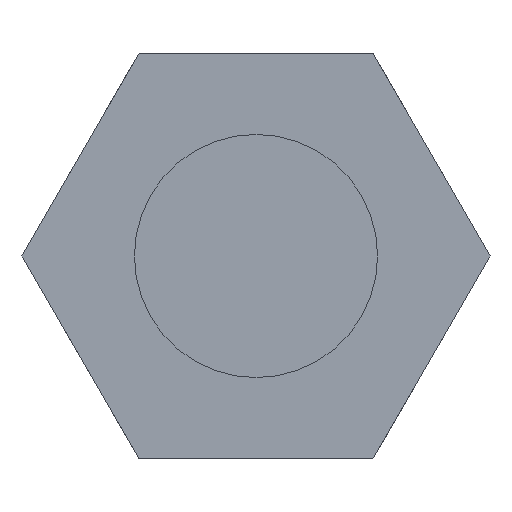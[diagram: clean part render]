
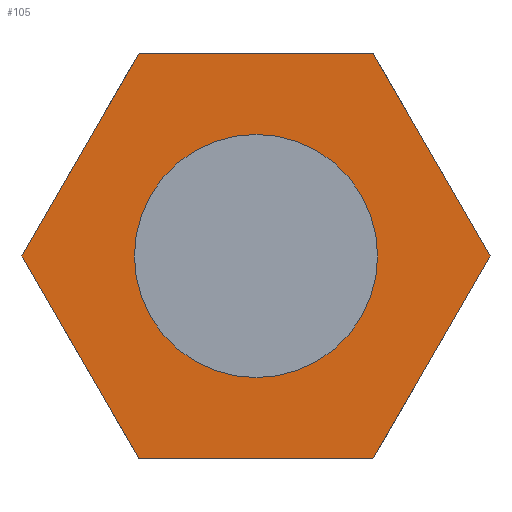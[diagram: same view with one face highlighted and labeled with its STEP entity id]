
A CAD part, front view. The second image highlights one B-rep face of the part: STEP entity #105.
In plain terms, the highlighted planar face has unit normal (0, -1, 0).
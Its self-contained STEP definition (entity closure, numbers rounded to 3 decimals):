
#35=AXIS2_PLACEMENT_3D('Plane Axis2P3D',#32,#33,#34) ;
#89=AXIS2_PLACEMENT_3D('Circle Axis2P3D',#87,#88,$) ;
#98=AXIS2_PLACEMENT_3D('Circle Axis2P3D',#96,#97,$) ;
#32=CARTESIAN_POINT('Axis2P3D Location',(133.5,23.,22.6)) ;
#37=CARTESIAN_POINT('Line Origine',(129.17,23.,25.1)) ;
#41=CARTESIAN_POINT('Vertex',(127.726,23.,22.6)) ;
#43=CARTESIAN_POINT('Vertex',(130.613,23.,27.6)) ;
#46=CARTESIAN_POINT('Line Origine',(129.17,23.,20.1)) ;
#50=CARTESIAN_POINT('Vertex',(130.613,23.,17.6)) ;
#53=CARTESIAN_POINT('Line Origine',(133.5,23.,17.6)) ;
#57=CARTESIAN_POINT('Vertex',(136.387,23.,17.6)) ;
#60=CARTESIAN_POINT('Line Origine',(137.83,23.,20.1)) ;
#64=CARTESIAN_POINT('Vertex',(139.274,23.,22.6)) ;
#67=CARTESIAN_POINT('Line Origine',(137.83,23.,25.1)) ;
#71=CARTESIAN_POINT('Vertex',(136.387,23.,27.6)) ;
#74=CARTESIAN_POINT('Line Origine',(133.5,23.,27.6)) ;
#87=CARTESIAN_POINT('Axis2P3D Location',(133.5,23.,22.6)) ;
#91=CARTESIAN_POINT('Vertex',(130.5,23.,22.6)) ;
#93=CARTESIAN_POINT('Vertex',(136.5,23.,22.6)) ;
#96=CARTESIAN_POINT('Axis2P3D Location',(133.5,23.,22.6)) ;
#33=DIRECTION('Axis2P3D Direction',(0.,1.,-0.)) ;
#34=DIRECTION('Axis2P3D XDirection',(-1.,0.,0.)) ;
#38=DIRECTION('Vector Direction',(0.5,0.,0.866)) ;
#47=DIRECTION('Vector Direction',(-0.5,0.,0.866)) ;
#54=DIRECTION('Vector Direction',(-1.,0.,0.)) ;
#61=DIRECTION('Vector Direction',(-0.5,0.,-0.866)) ;
#68=DIRECTION('Vector Direction',(0.5,0.,-0.866)) ;
#75=DIRECTION('Vector Direction',(-1.,0.,0.)) ;
#88=DIRECTION('Axis2P3D Direction',(0.,1.,-0.)) ;
#97=DIRECTION('Axis2P3D Direction',(0.,1.,-0.)) ;
#39=VECTOR('Line Direction',#38,1.) ;
#48=VECTOR('Line Direction',#47,1.) ;
#55=VECTOR('Line Direction',#54,1.) ;
#62=VECTOR('Line Direction',#61,1.) ;
#69=VECTOR('Line Direction',#68,1.) ;
#76=VECTOR('Line Direction',#75,1.) ;
#80=ORIENTED_EDGE('',*,*,#45,.F.) ;
#81=ORIENTED_EDGE('',*,*,#52,.F.) ;
#82=ORIENTED_EDGE('',*,*,#59,.F.) ;
#83=ORIENTED_EDGE('',*,*,#66,.F.) ;
#84=ORIENTED_EDGE('',*,*,#73,.F.) ;
#85=ORIENTED_EDGE('',*,*,#78,.F.) ;
#102=ORIENTED_EDGE('',*,*,#95,.T.) ;
#103=ORIENTED_EDGE('',*,*,#100,.T.) ;
#104=FACE_BOUND('',#101,.T.) ;
#105=ADVANCED_FACE('\X2\653951498F74536173AF95017D27\X0\',(#86,#104),#36,.F.) ;
#90=CIRCLE('generated circle',#89,3.) ;
#99=CIRCLE('generated circle',#98,3.) ;
#45=EDGE_CURVE('',#42,#44,#40,.T.) ;
#52=EDGE_CURVE('',#51,#42,#49,.T.) ;
#59=EDGE_CURVE('',#58,#51,#56,.T.) ;
#66=EDGE_CURVE('',#65,#58,#63,.T.) ;
#73=EDGE_CURVE('',#72,#65,#70,.T.) ;
#78=EDGE_CURVE('',#44,#72,#77,.F.) ;
#95=EDGE_CURVE('',#92,#94,#90,.T.) ;
#100=EDGE_CURVE('',#94,#92,#99,.T.) ;
#79=EDGE_LOOP('',(#80,#81,#82,#83,#84,#85)) ;
#101=EDGE_LOOP('',(#102,#103)) ;
#86=FACE_OUTER_BOUND('',#79,.T.) ;
#40=LINE('Line',#37,#39) ;
#49=LINE('Line',#46,#48) ;
#56=LINE('Line',#53,#55) ;
#63=LINE('Line',#60,#62) ;
#70=LINE('Line',#67,#69) ;
#77=LINE('Line',#74,#76) ;
#36=PLANE('Plane',#35) ;
#42=VERTEX_POINT('',#41) ;
#44=VERTEX_POINT('',#43) ;
#51=VERTEX_POINT('',#50) ;
#58=VERTEX_POINT('',#57) ;
#65=VERTEX_POINT('',#64) ;
#72=VERTEX_POINT('',#71) ;
#92=VERTEX_POINT('',#91) ;
#94=VERTEX_POINT('',#93) ;
